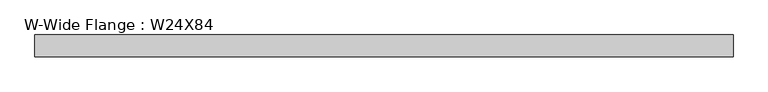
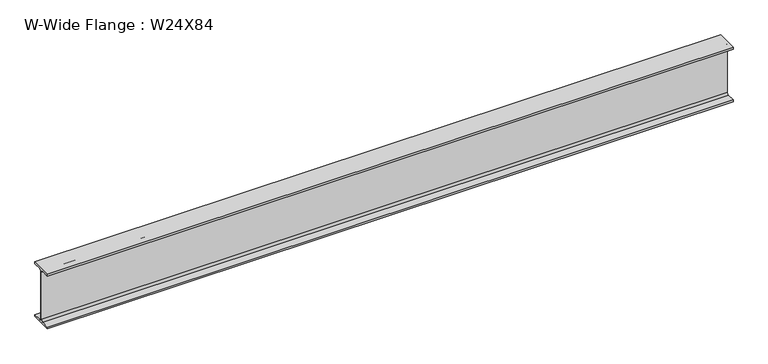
"""IFC4 building model written with IfcOpenShell, lengths in millimetres: beam geometry, W-Wide Flange : W24X84."""

from ifc_helpers import new_model, si_unit, point, frame, frame_2d, origin, place, context, project, spatial, polyline, circle_curve, trimmed, segment, composite_curve, outline, extrude, source, transform, mapped, element, save


def w_wide_flange_w24x84_4cf10b94(model_context):
    return source(origin(), model_context, "Body", "SweptSolid", [
        extrude(outline(composite_curve([segment(polyline([(114.554, -286.512), (114.554, -306.07), (-114.554, -306.07), (-114.554, -286.512), (-29.2735, -286.512)]), True, "CONTINUOUS"), segment(trimmed(circle_curve(frame_2d((-29.2735, -263.2075)), 23.3045), [point((-29.2735, -286.512))], [point((-5.969, -263.2075))], True, "CARTESIAN"), True, "CONTINUOUS"), segment(polyline([(-5.969, -263.2075), (-5.969, 263.2075)]), True, "CONTINUOUS"), segment(trimmed(circle_curve(frame_2d((-29.2735, 263.2075)), 23.3045), [point((-5.969, 263.2075))], [point((-29.2735, 286.512))], True, "CARTESIAN"), True, "CONTINUOUS"), segment(polyline([(-29.2735, 286.512), (-114.554, 286.512), (-114.554, 306.07), (114.554, 306.07), (114.554, 286.512), (29.2735, 286.512)]), True, "CONTINUOUS"), segment(trimmed(circle_curve(frame_2d((29.2735, 263.2075)), 23.3045), [point((29.2735, 286.512))], [point((5.969, 263.2075))], True, "CARTESIAN"), True, "CONTINUOUS"), segment(polyline([(5.969, 263.2075), (5.969, -263.2075)]), True, "CONTINUOUS"), segment(trimmed(circle_curve(frame_2d((29.2735, -263.2075)), 23.3045), [point((5.969, -263.2075))], [point((29.2735, -286.512))], True, "CARTESIAN"), True, "CONTINUOUS"), segment(polyline([(29.2735, -286.512), (114.554, -286.512)]), True, "CONTINUOUS")], self_intersect=False)), frame((-3645.6441406, 0.0, 0.0), z_axis=(1.0, 0.0, 0.0), x_axis=(0.0, 1.0, 0.0)), (0.0, 0.0, 1.0), 7291.2882812),
    ])


if __name__ == "__main__":
    model = new_model("IFC4")
    model_context = context("Model", 3, world=origin())
    ifc_project = project(units=[si_unit("LENGTHUNIT", "METRE", prefix="MILLI")], contexts=[model_context])
    site = spatial("IfcSite", under=ifc_project)
    building = spatial("IfcBuilding", under=site)
    placement = place(None, origin())
    w_wide_flange_w24x84_shape = w_wide_flange_w24x84_4cf10b94(model_context)
    element("IfcBeam", 1, ObjectType="W-Wide Flange : W24X84", at=placement, inside=building, context=model_context, shape_type="MappedRepresentation", body=[
        mapped(w_wide_flange_w24x84_shape, transform((0.0, 0.0, 0.0), x_axis=(1.0, 0.0, 0.0), y_axis=(0.0, 1.0, 0.0), z_axis=(0.0, 0.0, 1.0))),
    ])
    save(model, "model.ifc")
